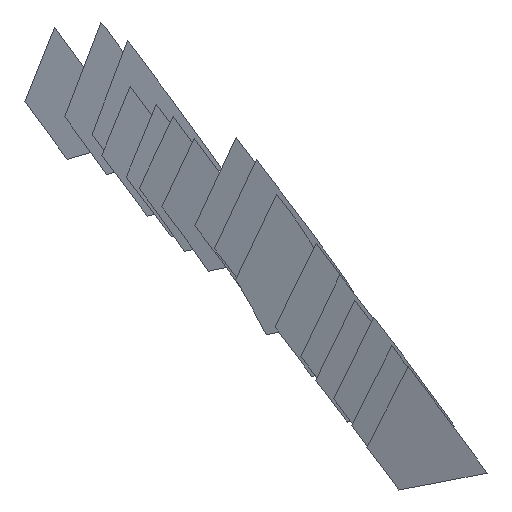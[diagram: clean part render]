
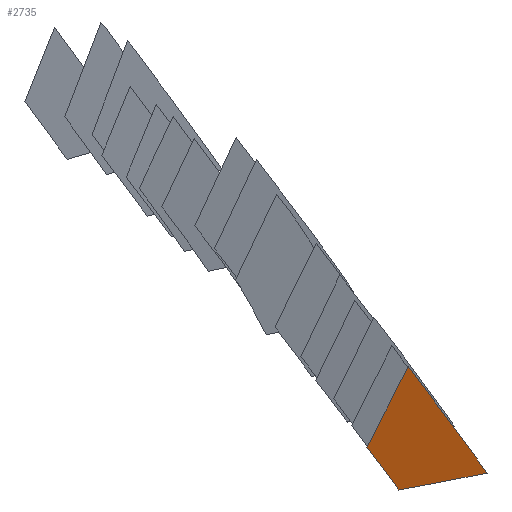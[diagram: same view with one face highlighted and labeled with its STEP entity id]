
A CAD part, left-side view. The second image highlights one B-rep face of the part: STEP entity #2735.
In plain terms, the highlighted free-form (B-spline) face has degree [1, 1] with [2, 2] control points.
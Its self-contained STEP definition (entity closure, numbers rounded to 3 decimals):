
#2735 = ADVANCED_FACE('',(#2736),#2749,.T.);
#2736 = FACE_BOUND('',#2737,.T.);
#2737 = EDGE_LOOP('',(#2738,#2759,#2773,#2787,#2801,#2815,#2829,#2843,
    #2857));
#2738 = ORIENTED_EDGE('',*,*,#2739,.T.);
#2739 = EDGE_CURVE('',#2740,#2742,#2744,.T.);
#2740 = VERTEX_POINT('',#2741);
#2741 = CARTESIAN_POINT('',(1254.097,-1848.187,
    1273.62));
#2742 = VERTEX_POINT('',#2743);
#2743 = CARTESIAN_POINT('',(1256.21,-1850.428,
    1270.657));
#2744 = SURFACE_CURVE('',#2745,(#2748),.PCURVE_S1.);
#2745 = B_SPLINE_CURVE_WITH_KNOTS('',1,(#2746,#2747),.UNSPECIFIED.,.F.,
  .F.,(2,2),(0.,4.273),.PIECEWISE_BEZIER_KNOTS.);
#2746 = CARTESIAN_POINT('',(1254.097,-1848.187,
    1273.62));
#2747 = CARTESIAN_POINT('',(1256.21,-1850.428,
    1270.657));
#2748 = PCURVE('',#2749,#2754);
#2749 = B_SPLINE_SURFACE_WITH_KNOTS('',1,1,(
    (#2750,#2751)
    ,(#2752,#2753
    )),.UNSPECIFIED.,.F.,.F.,.F.,(2,2),(2,2),(-2.799,
    4.405),(-3.087,3.36),
  .PIECEWISE_BEZIER_KNOTS.);
#2750 = CARTESIAN_POINT('',(1256.808,-1846.211,
    1266.718));
#2751 = CARTESIAN_POINT('',(1258.126,-1852.404,
    1267.934));
#2752 = CARTESIAN_POINT('',(1253.556,-1845.646,
    1273.121));
#2753 = CARTESIAN_POINT('',(1254.874,-1851.839,
    1274.337));
#2754 = DEFINITIONAL_REPRESENTATION('',(#2755),#2758);
#2755 = B_SPLINE_CURVE_WITH_KNOTS('',1,(#2756,#2757),.UNSPECIFIED.,.F.,
  .F.,(2,2),(0.,4.273),.PIECEWISE_BEZIER_KNOTS.);
#2756 = CARTESIAN_POINT('',(4.405,-0.442));
#2757 = CARTESIAN_POINT('',(0.642,1.584));
#2758 = ( GEOMETRIC_REPRESENTATION_CONTEXT(2) 
PARAMETRIC_REPRESENTATION_CONTEXT() REPRESENTATION_CONTEXT('2D SPACE',''
  ) );
#2759 = ORIENTED_EDGE('',*,*,#2760,.T.);
#2760 = EDGE_CURVE('',#2742,#2761,#2763,.T.);
#2761 = VERTEX_POINT('',#2762);
#2762 = CARTESIAN_POINT('',(1257.406,-1851.669,
    1268.961));
#2763 = SURFACE_CURVE('',#2764,(#2767),.PCURVE_S1.);
#2764 = B_SPLINE_CURVE_WITH_KNOTS('',1,(#2765,#2766),.UNSPECIFIED.,.F.,
  .F.,(2,2),(0.,2.418),.PIECEWISE_BEZIER_KNOTS.);
#2765 = CARTESIAN_POINT('',(1256.21,-1850.428,
    1270.657));
#2766 = CARTESIAN_POINT('',(1257.406,-1851.669,
    1268.961));
#2767 = PCURVE('',#2749,#2768);
#2768 = DEFINITIONAL_REPRESENTATION('',(#2769),#2772);
#2769 = B_SPLINE_CURVE_WITH_KNOTS('',1,(#2770,#2771),.UNSPECIFIED.,.F.,
  .F.,(2,2),(0.,2.418),.PIECEWISE_BEZIER_KNOTS.);
#2770 = CARTESIAN_POINT('',(0.642,1.584));
#2771 = CARTESIAN_POINT('',(-1.503,2.701));
#2772 = ( GEOMETRIC_REPRESENTATION_CONTEXT(2) 
PARAMETRIC_REPRESENTATION_CONTEXT() REPRESENTATION_CONTEXT('2D SPACE',''
  ) );
#2773 = ORIENTED_EDGE('',*,*,#2774,.T.);
#2774 = EDGE_CURVE('',#2761,#2775,#2777,.T.);
#2775 = VERTEX_POINT('',#2776);
#2776 = CARTESIAN_POINT('',(1258.126,-1852.404,
    1267.934));
#2777 = SURFACE_CURVE('',#2778,(#2781),.PCURVE_S1.);
#2778 = B_SPLINE_CURVE_WITH_KNOTS('',1,(#2779,#2780),.UNSPECIFIED.,.F.,
  .F.,(2,2),(0.,1.454),.PIECEWISE_BEZIER_KNOTS.);
#2779 = CARTESIAN_POINT('',(1257.406,-1851.669,
    1268.961));
#2780 = CARTESIAN_POINT('',(1258.126,-1852.404,
    1267.934));
#2781 = PCURVE('',#2749,#2782);
#2782 = DEFINITIONAL_REPRESENTATION('',(#2783),#2786);
#2783 = B_SPLINE_CURVE_WITH_KNOTS('',1,(#2784,#2785),.UNSPECIFIED.,.F.,
  .F.,(2,2),(0.,1.454),.PIECEWISE_BEZIER_KNOTS.);
#2784 = CARTESIAN_POINT('',(-1.503,2.701));
#2785 = CARTESIAN_POINT('',(-2.799,3.36));
#2786 = ( GEOMETRIC_REPRESENTATION_CONTEXT(2) 
PARAMETRIC_REPRESENTATION_CONTEXT() REPRESENTATION_CONTEXT('2D SPACE',''
  ) );
#2787 = ORIENTED_EDGE('',*,*,#2788,.T.);
#2788 = EDGE_CURVE('',#2775,#2789,#2791,.T.);
#2789 = VERTEX_POINT('',#2790);
#2790 = CARTESIAN_POINT('',(1257.893,-1851.326,
    1267.728));
#2791 = SURFACE_CURVE('',#2792,(#2795),.PCURVE_S1.);
#2792 = B_SPLINE_CURVE_WITH_KNOTS('',1,(#2793,#2794),.UNSPECIFIED.,.F.,
  .F.,(2,2),(0.,1.122),.PIECEWISE_BEZIER_KNOTS.);
#2793 = CARTESIAN_POINT('',(1258.126,-1852.404,
    1267.934));
#2794 = CARTESIAN_POINT('',(1257.893,-1851.326,
    1267.728));
#2795 = PCURVE('',#2749,#2796);
#2796 = DEFINITIONAL_REPRESENTATION('',(#2797),#2800);
#2797 = B_SPLINE_CURVE_WITH_KNOTS('',1,(#2798,#2799),.UNSPECIFIED.,.F.,
  .F.,(2,2),(0.,1.122),.PIECEWISE_BEZIER_KNOTS.);
#2798 = CARTESIAN_POINT('',(-2.799,3.36));
#2799 = CARTESIAN_POINT('',(-2.792,2.238));
#2800 = ( GEOMETRIC_REPRESENTATION_CONTEXT(2) 
PARAMETRIC_REPRESENTATION_CONTEXT() REPRESENTATION_CONTEXT('2D SPACE',''
  ) );
#2801 = ORIENTED_EDGE('',*,*,#2802,.T.);
#2802 = EDGE_CURVE('',#2789,#2803,#2805,.T.);
#2803 = VERTEX_POINT('',#2804);
#2804 = CARTESIAN_POINT('',(1257.482,-1849.402,
    1267.354));
#2805 = SURFACE_CURVE('',#2806,(#2809),.PCURVE_S1.);
#2806 = B_SPLINE_CURVE_WITH_KNOTS('',1,(#2807,#2808),.UNSPECIFIED.,.F.,
  .F.,(2,2),(0.,2.002),.PIECEWISE_BEZIER_KNOTS.);
#2807 = CARTESIAN_POINT('',(1257.893,-1851.326,
    1267.728));
#2808 = CARTESIAN_POINT('',(1257.482,-1849.402,
    1267.354));
#2809 = PCURVE('',#2749,#2810);
#2810 = DEFINITIONAL_REPRESENTATION('',(#2811),#2814);
#2811 = B_SPLINE_CURVE_WITH_KNOTS('',1,(#2812,#2813),.UNSPECIFIED.,.F.,
  .F.,(2,2),(0.,2.002),.PIECEWISE_BEZIER_KNOTS.);
#2812 = CARTESIAN_POINT('',(-2.792,2.238));
#2813 = CARTESIAN_POINT('',(-2.788,0.236));
#2814 = ( GEOMETRIC_REPRESENTATION_CONTEXT(2) 
PARAMETRIC_REPRESENTATION_CONTEXT() REPRESENTATION_CONTEXT('2D SPACE',''
  ) );
#2815 = ORIENTED_EDGE('',*,*,#2816,.T.);
#2816 = EDGE_CURVE('',#2803,#2817,#2819,.T.);
#2817 = VERTEX_POINT('',#2818);
#2818 = CARTESIAN_POINT('',(1257.106,-1847.68,
    1267.035));
#2819 = SURFACE_CURVE('',#2820,(#2823),.PCURVE_S1.);
#2820 = B_SPLINE_CURVE_WITH_KNOTS('',1,(#2821,#2822),.UNSPECIFIED.,.F.,
  .F.,(2,2),(0.,1.791),.PIECEWISE_BEZIER_KNOTS.);
#2821 = CARTESIAN_POINT('',(1257.482,-1849.402,
    1267.354));
#2822 = CARTESIAN_POINT('',(1257.106,-1847.68,
    1267.035));
#2823 = PCURVE('',#2749,#2824);
#2824 = DEFINITIONAL_REPRESENTATION('',(#2825),#2828);
#2825 = B_SPLINE_CURVE_WITH_KNOTS('',1,(#2826,#2827),.UNSPECIFIED.,.F.,
  .F.,(2,2),(0.,1.791),.PIECEWISE_BEZIER_KNOTS.);
#2826 = CARTESIAN_POINT('',(-2.788,0.236));
#2827 = CARTESIAN_POINT('',(-2.767,-1.555));
#2828 = ( GEOMETRIC_REPRESENTATION_CONTEXT(2) 
PARAMETRIC_REPRESENTATION_CONTEXT() REPRESENTATION_CONTEXT('2D SPACE',''
  ) );
#2829 = ORIENTED_EDGE('',*,*,#2830,.T.);
#2830 = EDGE_CURVE('',#2817,#2831,#2833,.T.);
#2831 = VERTEX_POINT('',#2832);
#2832 = CARTESIAN_POINT('',(1256.343,-1846.888,
    1268.118));
#2833 = SURFACE_CURVE('',#2834,(#2837),.PCURVE_S1.);
#2834 = B_SPLINE_CURVE_WITH_KNOTS('',1,(#2835,#2836),.UNSPECIFIED.,.F.,
  .F.,(2,2),(0.,1.544),.PIECEWISE_BEZIER_KNOTS.);
#2835 = CARTESIAN_POINT('',(1257.106,-1847.68,
    1267.035));
#2836 = CARTESIAN_POINT('',(1256.343,-1846.888,
    1268.118));
#2837 = PCURVE('',#2749,#2838);
#2838 = DEFINITIONAL_REPRESENTATION('',(#2839),#2842);
#2839 = B_SPLINE_CURVE_WITH_KNOTS('',1,(#2840,#2841),.UNSPECIFIED.,.F.,
  .F.,(2,2),(0.,1.544),.PIECEWISE_BEZIER_KNOTS.);
#2840 = CARTESIAN_POINT('',(-2.767,-1.555));
#2841 = CARTESIAN_POINT('',(-1.397,-2.268));
#2842 = ( GEOMETRIC_REPRESENTATION_CONTEXT(2) 
PARAMETRIC_REPRESENTATION_CONTEXT() REPRESENTATION_CONTEXT('2D SPACE',''
  ) );
#2843 = ORIENTED_EDGE('',*,*,#2844,.T.);
#2844 = EDGE_CURVE('',#2831,#2845,#2847,.T.);
#2845 = VERTEX_POINT('',#2846);
#2846 = CARTESIAN_POINT('',(1255.488,-1845.982,
    1269.316));
#2847 = SURFACE_CURVE('',#2848,(#2851),.PCURVE_S1.);
#2848 = B_SPLINE_CURVE_WITH_KNOTS('',1,(#2849,#2850),.UNSPECIFIED.,.F.,
  .F.,(2,2),(0.,1.728),.PIECEWISE_BEZIER_KNOTS.);
#2849 = CARTESIAN_POINT('',(1256.343,-1846.888,
    1268.118));
#2850 = CARTESIAN_POINT('',(1255.488,-1845.982,
    1269.316));
#2851 = PCURVE('',#2749,#2852);
#2852 = DEFINITIONAL_REPRESENTATION('',(#2853),#2856);
#2853 = B_SPLINE_CURVE_WITH_KNOTS('',1,(#2854,#2855),.UNSPECIFIED.,.F.,
  .F.,(2,2),(0.,1.728),.PIECEWISE_BEZIER_KNOTS.);
#2854 = CARTESIAN_POINT('',(-1.397,-2.268));
#2855 = CARTESIAN_POINT('',(0.124,-3.087));
#2856 = ( GEOMETRIC_REPRESENTATION_CONTEXT(2) 
PARAMETRIC_REPRESENTATION_CONTEXT() REPRESENTATION_CONTEXT('2D SPACE',''
  ) );
#2857 = ORIENTED_EDGE('',*,*,#2858,.T.);
#2858 = EDGE_CURVE('',#2845,#2740,#2859,.T.);
#2859 = SURFACE_CURVE('',#2860,(#2863),.PCURVE_S1.);
#2860 = B_SPLINE_CURVE_WITH_KNOTS('',1,(#2861,#2862),.UNSPECIFIED.,.F.,
  .F.,(2,2),(0.,5.032),.PIECEWISE_BEZIER_KNOTS.);
#2861 = CARTESIAN_POINT('',(1255.488,-1845.982,
    1269.316));
#2862 = CARTESIAN_POINT('',(1254.097,-1848.187,
    1273.62));
#2863 = PCURVE('',#2749,#2864);
#2864 = DEFINITIONAL_REPRESENTATION('',(#2865),#2868);
#2865 = B_SPLINE_CURVE_WITH_KNOTS('',1,(#2866,#2867),.UNSPECIFIED.,.F.,
  .F.,(2,2),(0.,5.032),.PIECEWISE_BEZIER_KNOTS.);
#2866 = CARTESIAN_POINT('',(0.124,-3.087));
#2867 = CARTESIAN_POINT('',(4.405,-0.442));
#2868 = ( GEOMETRIC_REPRESENTATION_CONTEXT(2) 
PARAMETRIC_REPRESENTATION_CONTEXT() REPRESENTATION_CONTEXT('2D SPACE',''
  ) );
